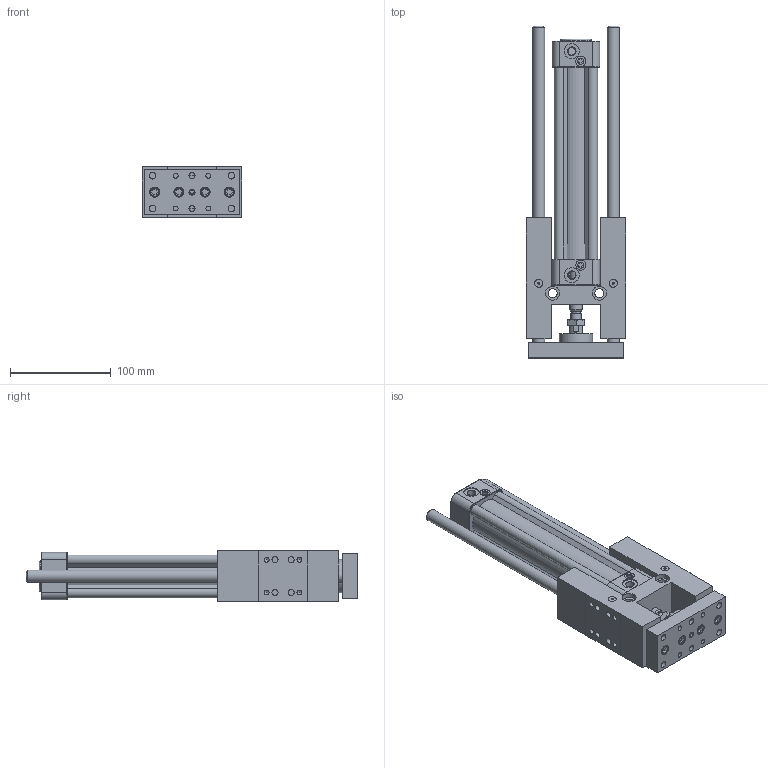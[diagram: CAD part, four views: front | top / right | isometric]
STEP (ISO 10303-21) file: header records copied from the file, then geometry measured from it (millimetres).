
FILE_DESCRIPTION((''),'2;1');
FILE_NAME('I:\3D電子目錄\氣缸\GHB(U)\GHB(U)\GHB(U)32\GHB(U)32x150.stp','2007-10-19T10:36:30',('Administrator'),(''),'Autodesk Inventor 11','Autodesk Inventor 11','');
FILE_SCHEMA(('AUTOMOTIVE_DESIGN { 1 0 10303 214 1 1 1 1 }'));
Length unit declared in the file: millimetre
Products named in the file (1): GHB(U)32
Bounding box: 99 x 329 x 50.2 mm (x, y, z)
Volume: 693535.5 mm3; surface area: 192608.6 mm2
Topology: 17 solids, 17 shells, 738 faces, 1598 edges, 986 vertices
Faces by surface type: plane 291, bspline 199, cylinder 159, cone 80, torus 9
Full cylindrical faces by diameter (mm): 2.6 x2, 4.9 x2, 4.917 x4, 5 x5, 5.5 x10, 6 x11, 6.5 x8, 7.5 x1, 7.8 x4, 7.9 x3, 8 x5, 9 x8, 10 x7, 10.2 x8, 12 x4, 13 x1, 14 x1, 15 x2, 17 x2, 30 x1, 32 x1, 33 x1
Entity records: 20771 total; most frequent: CARTESIAN_POINT 6160, DIRECTION 2934, ORIENTED_EDGE 2754, EDGE_CURVE 1377, AXIS2_PLACEMENT_3D 1157, EDGE_LOOP 1056, VERTEX_POINT 953, FACE_OUTER_BOUND 738
